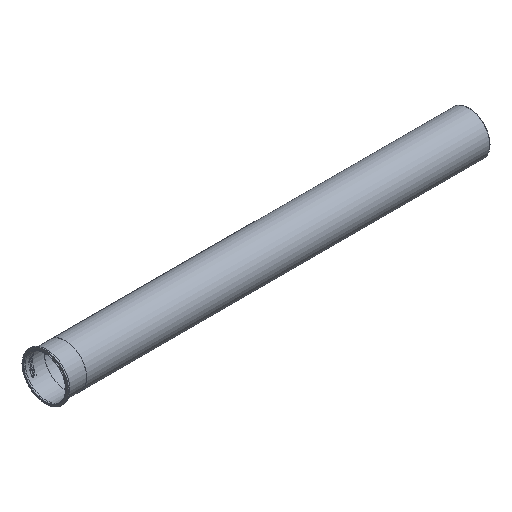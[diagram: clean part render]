
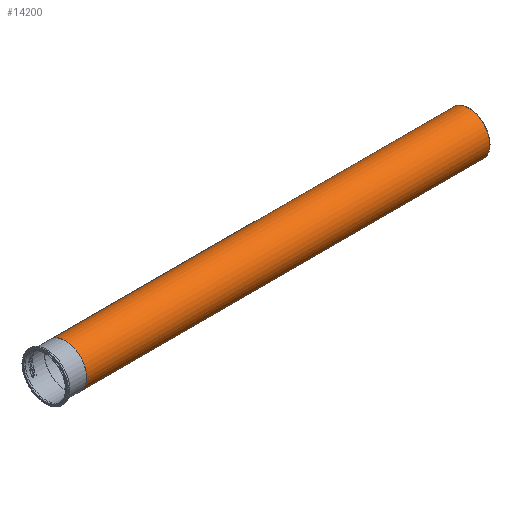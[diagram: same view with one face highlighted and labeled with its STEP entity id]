
A CAD part, isometric view. The second image highlights one B-rep face of the part: STEP entity #14200.
In plain terms, the highlighted cylindrical face has radius 99.949 mm (diameter 199.898 mm), a full revolution.
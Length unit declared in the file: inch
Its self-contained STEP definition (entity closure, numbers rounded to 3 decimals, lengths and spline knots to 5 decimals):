
#14169=CARTESIAN_POINT('',(3.88,3.935,0.0));
#14170=VERTEX_POINT('',#14169);
#14171=CARTESIAN_POINT('',(3.88,0.0,0.0));
#14172=DIRECTION('',(1.0,0.0,0.0));
#14173=DIRECTION('',(0.0,1.0,0.0));
#14174=AXIS2_PLACEMENT_3D('',#14171,#14172,#14173);
#14175=CIRCLE('',#14174,3.935);
#14176=EDGE_CURVE('',#14170,#14170,#14175,.T.);
#14181=CARTESIAN_POINT('',(41.31008,0.0,0.0));
#14182=DIRECTION('',(1.0,0.0,0.0));
#14183=DIRECTION('',(0.0,1.0,0.0));
#14184=AXIS2_PLACEMENT_3D('',#14181,#14182,#14183);
#14185=CYLINDRICAL_SURFACE('',#14184,3.935);
#14186=CARTESIAN_POINT('',(78.74016,3.935,0.0));
#14187=VERTEX_POINT('',#14186);
#14188=CARTESIAN_POINT('',(78.74016,0.0,0.0));
#14189=DIRECTION('',(1.0,0.0,0.0));
#14190=DIRECTION('',(0.0,1.0,0.0));
#14191=AXIS2_PLACEMENT_3D('',#14188,#14189,#14190);
#14192=CIRCLE('',#14191,3.935);
#14193=EDGE_CURVE('',#14187,#14187,#14192,.T.);
#14194=ORIENTED_EDGE('',*,*,#14193,.F.);
#14195=EDGE_LOOP('',(#14194));
#14196=FACE_OUTER_BOUND('',#14195,.T.);
#14197=ORIENTED_EDGE('',*,*,#14176,.T.);
#14198=EDGE_LOOP('',(#14197));
#14199=FACE_BOUND('',#14198,.T.);
#14200=ADVANCED_FACE('',(#14196,#14199),#14185,.T.);
